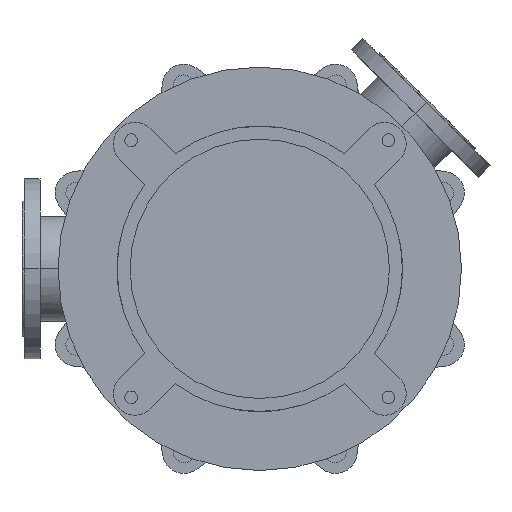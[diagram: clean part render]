
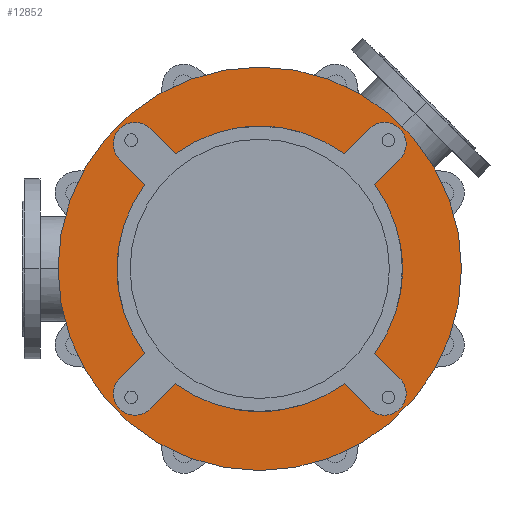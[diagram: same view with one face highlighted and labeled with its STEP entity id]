
A CAD part, front view. The second image highlights one B-rep face of the part: STEP entity #12852.
In plain terms, the highlighted planar face has unit normal (0, -1, 0).
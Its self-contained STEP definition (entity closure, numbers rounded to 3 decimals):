
#2520=CARTESIAN_POINT('',(0.,-25.,0.));
#2521=DIRECTION('',(0.,1.,0.));
#2522=DIRECTION('',(0.592,0.,-0.806));
#2523=AXIS2_PLACEMENT_3D('',#2520,#2521,#2522);
#2538=CARTESIAN_POINT('',(0.,-25.,0.));
#2539=DIRECTION('',(0.,1.,0.));
#2540=DIRECTION('',(0.806,0.,0.592));
#2541=AXIS2_PLACEMENT_3D('',#2538,#2539,#2540);
#2565=CARTESIAN_POINT('',(0.,-25.,0.));
#2566=DIRECTION('',(0.,1.,0.));
#2567=DIRECTION('',(-0.806,0.,-0.592));
#2568=AXIS2_PLACEMENT_3D('',#2565,#2566,#2567);
#2574=CARTESIAN_POINT('',(0.,-25.,0.));
#2575=DIRECTION('',(0.,1.,0.));
#2576=DIRECTION('',(-0.592,0.,0.806));
#2577=AXIS2_PLACEMENT_3D('',#2574,#2575,#2576);
#2752=CARTESIAN_POINT('',(0.,-25.,0.));
#2753=DIRECTION('',(0.,-1.,0.));
#2754=DIRECTION('',(-1.,0.,0.));
#2755=AXIS2_PLACEMENT_3D('',#2752,#2753,#2754);
#2757=CARTESIAN_POINT('',(0.,-25.,0.));
#2758=DIRECTION('',(0.,1.,0.));
#2759=DIRECTION('',(-1.,0.,0.));
#2760=AXIS2_PLACEMENT_3D('',#2757,#2758,#2759);
#2762=CARTESIAN_POINT('',(-173.241,-25.,173.241));
#2763=DIRECTION('',(0.,-1.,0.));
#2764=DIRECTION('',(0.707,0.,0.707));
#2765=AXIS2_PLACEMENT_3D('',#2762,#2763,#2764);
#2767=DIRECTION('',(0.707,0.,-0.707));
#2768=VECTOR('',#2767,49.286);
#2769=CARTESIAN_POINT('',(-194.454,-25.,152.028));
#2770=LINE('',#2769,#2768);
#2771=DIRECTION('',(-0.707,0.,-0.707));
#2772=VECTOR('',#2771,49.286);
#2773=CARTESIAN_POINT('',(-159.604,-25.,-117.178));
#2774=LINE('',#2773,#2772);
#2775=CARTESIAN_POINT('',(-173.241,-25.,-173.241));
#2776=DIRECTION('',(0.,-1.,0.));
#2777=DIRECTION('',(-0.707,0.,0.707));
#2778=AXIS2_PLACEMENT_3D('',#2775,#2776,#2777);
#2780=DIRECTION('',(0.707,0.,0.707));
#2781=VECTOR('',#2780,49.286);
#2782=CARTESIAN_POINT('',(-152.028,-25.,-194.454));
#2783=LINE('',#2782,#2781);
#2784=DIRECTION('',(0.707,0.,-0.707));
#2785=VECTOR('',#2784,49.286);
#2786=CARTESIAN_POINT('',(117.178,-25.,-159.604));
#2787=LINE('',#2786,#2785);
#2788=CARTESIAN_POINT('',(173.241,-25.,-173.241));
#2789=DIRECTION('',(0.,-1.,0.));
#2790=DIRECTION('',(-0.707,0.,-0.707));
#2791=AXIS2_PLACEMENT_3D('',#2788,#2789,#2790);
#2793=DIRECTION('',(-0.707,0.,0.707));
#2794=VECTOR('',#2793,49.286);
#2795=CARTESIAN_POINT('',(194.454,-25.,-152.028));
#2796=LINE('',#2795,#2794);
#2797=DIRECTION('',(0.707,0.,0.707));
#2798=VECTOR('',#2797,49.286);
#2799=CARTESIAN_POINT('',(159.604,-25.,117.178));
#2800=LINE('',#2799,#2798);
#2801=CARTESIAN_POINT('',(173.241,-25.,173.241));
#2802=DIRECTION('',(0.,-1.,0.));
#2803=DIRECTION('',(0.707,0.,-0.707));
#2804=AXIS2_PLACEMENT_3D('',#2801,#2802,#2803);
#2806=DIRECTION('',(-0.707,0.,-0.707));
#2807=VECTOR('',#2806,49.286);
#2808=CARTESIAN_POINT('',(152.028,-25.,194.454));
#2809=LINE('',#2808,#2807);
#2810=DIRECTION('',(-0.707,0.,0.707));
#2811=VECTOR('',#2810,49.286);
#2812=CARTESIAN_POINT('',(-117.178,-25.,159.604));
#2813=LINE('',#2812,#2811);
#8365=CARTESIAN_POINT('',(-280.,-25.,0.));
#8366=CARTESIAN_POINT('',(280.,-25.,0.));
#8367=VERTEX_POINT('',#8365);
#8368=VERTEX_POINT('',#8366);
#8389=CARTESIAN_POINT('',(-194.454,-25.,-152.028));
#8390=CARTESIAN_POINT('',(-152.028,-25.,-194.454));
#8391=VERTEX_POINT('',#8389);
#8392=VERTEX_POINT('',#8390);
#8393=CARTESIAN_POINT('',(-117.178,-25.,-159.604));
#8394=VERTEX_POINT('',#8393);
#8395=CARTESIAN_POINT('',(-159.604,-25.,-117.178));
#8396=VERTEX_POINT('',#8395);
#8405=CARTESIAN_POINT('',(152.028,-25.,-194.454));
#8406=CARTESIAN_POINT('',(194.454,-25.,-152.028));
#8407=VERTEX_POINT('',#8405);
#8408=VERTEX_POINT('',#8406);
#8409=CARTESIAN_POINT('',(159.604,-25.,-117.178));
#8410=VERTEX_POINT('',#8409);
#8411=CARTESIAN_POINT('',(117.178,-25.,-159.604));
#8412=VERTEX_POINT('',#8411);
#8421=CARTESIAN_POINT('',(194.454,-25.,152.028));
#8422=CARTESIAN_POINT('',(152.028,-25.,194.454));
#8423=VERTEX_POINT('',#8421);
#8424=VERTEX_POINT('',#8422);
#8425=CARTESIAN_POINT('',(117.178,-25.,159.604));
#8426=VERTEX_POINT('',#8425);
#8427=CARTESIAN_POINT('',(159.604,-25.,117.178));
#8428=VERTEX_POINT('',#8427);
#8437=CARTESIAN_POINT('',(-152.028,-25.,194.454));
#8438=CARTESIAN_POINT('',(-194.454,-25.,152.028));
#8439=VERTEX_POINT('',#8437);
#8440=VERTEX_POINT('',#8438);
#8441=CARTESIAN_POINT('',(-159.604,-25.,117.178));
#8442=VERTEX_POINT('',#8441);
#8443=CARTESIAN_POINT('',(-117.178,-25.,159.604));
#8444=VERTEX_POINT('',#8443);
#12812=CARTESIAN_POINT('',(0.,-25.,0.));
#12813=DIRECTION('',(0.,-1.,0.));
#12814=DIRECTION('',(-1.,0.,0.));
#12815=AXIS2_PLACEMENT_3D('',#12812,#12813,#12814);
#12816=PLANE('',#12815);
#12818=ORIENTED_EDGE('',*,*,#12817,.F.);
#12820=ORIENTED_EDGE('',*,*,#12819,.T.);
#12821=EDGE_LOOP('',(#12818,#12820));
#12822=FACE_OUTER_BOUND('',#12821,.F.);
#12824=ORIENTED_EDGE('',*,*,#12823,.T.);
#12826=ORIENTED_EDGE('',*,*,#12825,.T.);
#12827=ORIENTED_EDGE('',*,*,#12765,.F.);
#12829=ORIENTED_EDGE('',*,*,#12828,.T.);
#12831=ORIENTED_EDGE('',*,*,#12830,.T.);
#12833=ORIENTED_EDGE('',*,*,#12832,.T.);
#12834=ORIENTED_EDGE('',*,*,#12718,.F.);
#12835=ORIENTED_EDGE('',*,*,#12802,.T.);
#12837=ORIENTED_EDGE('',*,*,#12836,.T.);
#12839=ORIENTED_EDGE('',*,*,#12838,.T.);
#12840=ORIENTED_EDGE('',*,*,#12739,.F.);
#12842=ORIENTED_EDGE('',*,*,#12841,.T.);
#12844=ORIENTED_EDGE('',*,*,#12843,.T.);
#12846=ORIENTED_EDGE('',*,*,#12845,.T.);
#12847=ORIENTED_EDGE('',*,*,#12783,.F.);
#12849=ORIENTED_EDGE('',*,*,#12848,.T.);
#12850=EDGE_LOOP('',(#12824,#12826,#12827,#12829,#12831,#12833,#12834,#12835,
#12837,#12839,#12840,#12842,#12844,#12846,#12847,#12849));
#12851=FACE_BOUND('',#12850,.F.);
#12852=ADVANCED_FACE('',(#12822,#12851),#12816,.T.);
#2524=CIRCLE('',#2523,198.);
#2542=CIRCLE('',#2541,198.);
#2569=CIRCLE('',#2568,198.);
#2578=CIRCLE('',#2577,198.);
#2756=CIRCLE('',#2755,280.);
#2761=CIRCLE('',#2760,280.);
#2766=CIRCLE('',#2765,30.);
#2779=CIRCLE('',#2778,30.);
#2792=CIRCLE('',#2791,30.);
#2805=CIRCLE('',#2804,30.);
#12718=EDGE_CURVE('',#8412,#8394,#2524,.T.);
#12739=EDGE_CURVE('',#8428,#8410,#2542,.T.);
#12765=EDGE_CURVE('',#8396,#8442,#2569,.T.);
#12783=EDGE_CURVE('',#8444,#8426,#2578,.T.);
#12802=EDGE_CURVE('',#8412,#8407,#2787,.T.);
#12817=EDGE_CURVE('',#8367,#8368,#2756,.T.);
#12819=EDGE_CURVE('',#8367,#8368,#2761,.T.);
#12823=EDGE_CURVE('',#8439,#8440,#2766,.T.);
#12825=EDGE_CURVE('',#8440,#8442,#2770,.T.);
#12828=EDGE_CURVE('',#8396,#8391,#2774,.T.);
#12830=EDGE_CURVE('',#8391,#8392,#2779,.T.);
#12832=EDGE_CURVE('',#8392,#8394,#2783,.T.);
#12836=EDGE_CURVE('',#8407,#8408,#2792,.T.);
#12838=EDGE_CURVE('',#8408,#8410,#2796,.T.);
#12841=EDGE_CURVE('',#8428,#8423,#2800,.T.);
#12843=EDGE_CURVE('',#8423,#8424,#2805,.T.);
#12845=EDGE_CURVE('',#8424,#8426,#2809,.T.);
#12848=EDGE_CURVE('',#8444,#8439,#2813,.T.);
